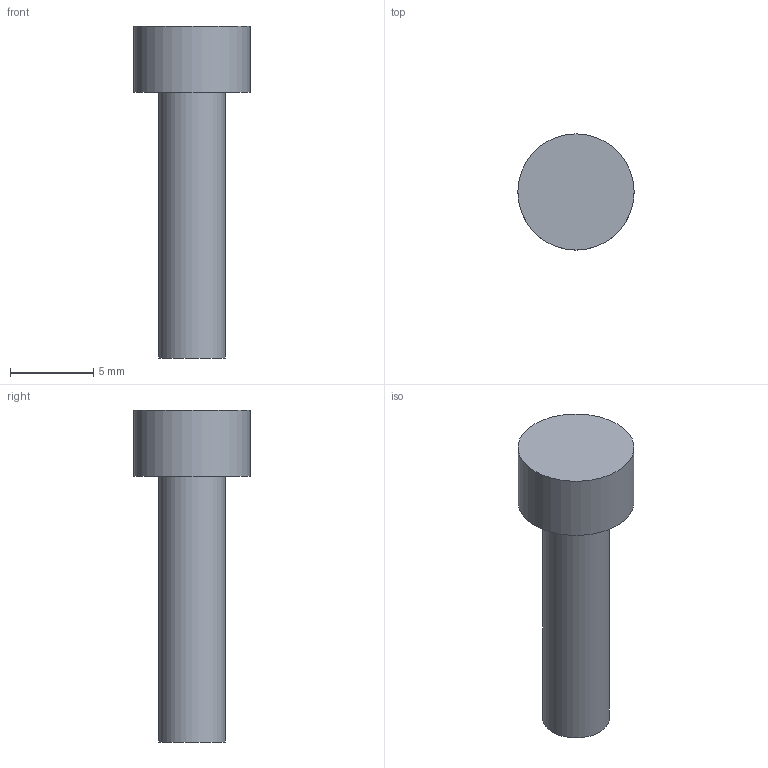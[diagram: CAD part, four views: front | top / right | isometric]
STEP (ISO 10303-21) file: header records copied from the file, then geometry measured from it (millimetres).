
FILE_DESCRIPTION(('Open CASCADE Model'),'2;1');
FILE_NAME('Open CASCADE Shape Model','2026-09-10T23:36:51',('Author'),( 'Open CASCADE'),'Open CASCADE STEP processor 7.9','Open CASCADE 7.9' ,'Unknown');
FILE_SCHEMA(('AUTOMOTIVE_DESIGN { 1 0 10303 214 1 1 1 1 }'));
Length unit declared in the file: millimetre
Products named in the file (1): Open CASCADE STEP translator 7.9 26
Bounding box: 7 x 7 x 20 mm (x, y, z)
Volume: 355 mm3; surface area: 366 mm2
Topology: 1 solids, 1 shells, 5 faces, 6 edges, 4 vertices
Faces by surface type: plane 3, cylinder 2
Full cylindrical faces by diameter (mm): 4 x1, 7 x1
Entity records: 192 total; most frequent: DIRECTION 34, CARTESIAN_POINT 28, ORIENTED_EDGE 12, PCURVE 12, DEFINITIONAL_REPRESENTATION 12, AXIS2_PLACEMENT_3D 10, LINE 10, VECTOR 10
